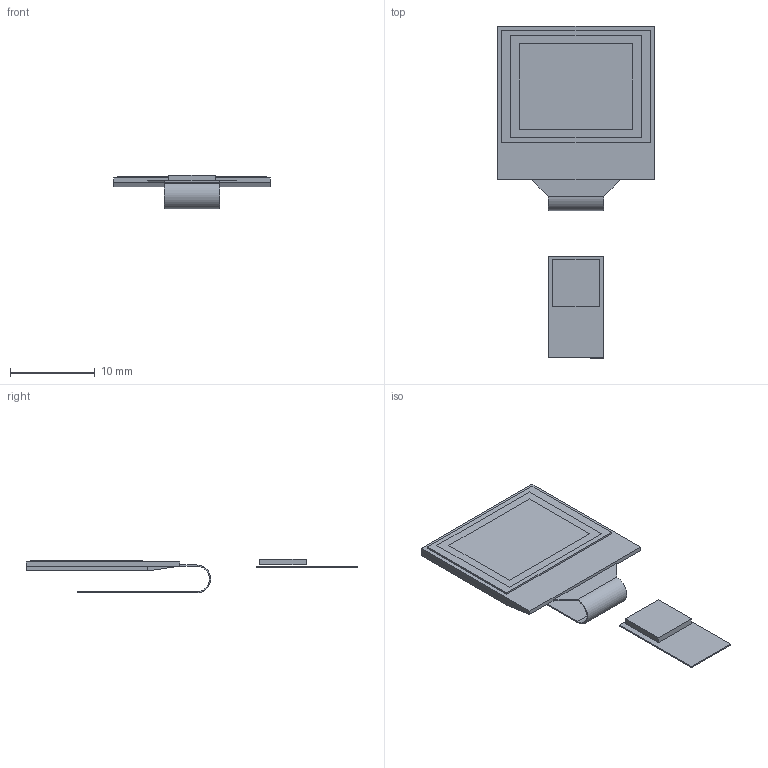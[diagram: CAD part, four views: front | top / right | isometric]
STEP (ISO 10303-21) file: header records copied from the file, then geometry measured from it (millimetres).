
FILE_DESCRIPTION (( 'STEP AP214' ), '1' );
FILE_NAME ('CFAL6448A-066BW_Bent_Tail_2mm.STEP', '2019-07-18T22:35:40', ( '' ), ( '' ), 'SwSTEP 2.0', 'SolidWorks 2015', '' );
FILE_SCHEMA (( 'AUTOMOTIVE_DESIGN' ));
Length unit declared in the file: millimetre
Products named in the file (1): CFAL6448A-066BW_Bent_Tail_2mm
Bounding box: 18.46 x 39.1 x 4 mm (x, y, z)
Volume: 433.9 mm3; surface area: 2425.2 mm2
Topology: 7 solids, 7 shells, 53 faces, 111 edges, 74 vertices
Faces by surface type: plane 51, cylinder 2
Entity records: 1906 total; most frequent: CARTESIAN_POINT 239, DIRECTION 223, ORIENTED_EDGE 222, EDGE_CURVE 111, LINE 107, VECTOR 107, VERTEX_POINT 74, AXIS2_PLACEMENT_3D 58
